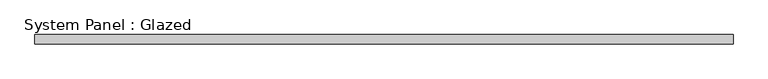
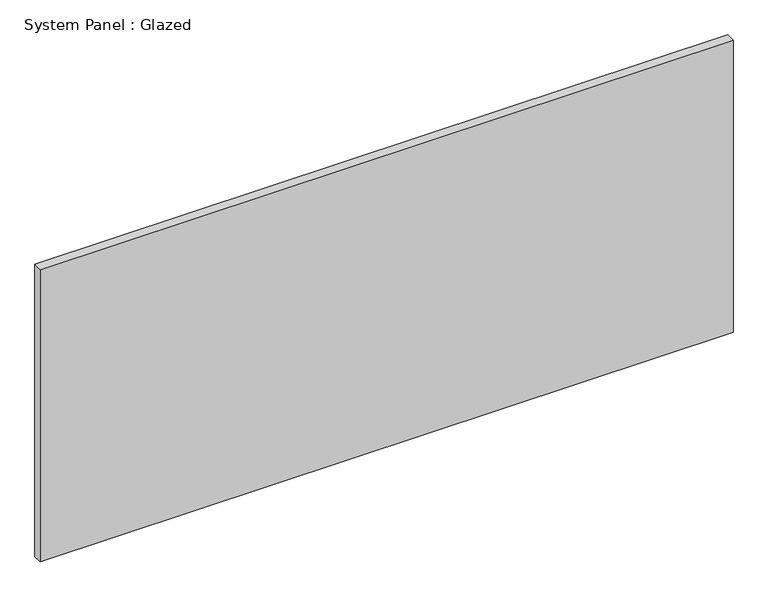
"""IFC4 building model written with IfcOpenShell, lengths in millimetres: plate geometry, System Panel : Glazed."""

from ifc_helpers import new_model, si_unit, origin, origin_with_axes, place, context, project, spatial, polyline, outline, extrude, source, transform, mapped, element, save


def system_panel_glazed_34b124d6(model_context):
    return source(origin(), model_context, "Body", "SweptSolid", [
        extrude(outline(polyline([(968.375, 19.05), (-968.375, 19.05), (-968.375, 44.45), (968.375, 44.45), (968.375, 19.05)])), origin_with_axes(), (0.0, 0.0, 1.0), 863.6),
    ])


if __name__ == "__main__":
    model = new_model("IFC4")
    model_context = context("Model", 3, world=origin())
    ifc_project = project(units=[si_unit("LENGTHUNIT", "METRE", prefix="MILLI")], contexts=[model_context])
    site = spatial("IfcSite", under=ifc_project)
    building = spatial("IfcBuilding", under=site)
    placement = place(None, origin())
    system_panel_glazed_shape = system_panel_glazed_34b124d6(model_context)
    element("IfcPlate", 1, ObjectType="System Panel : Glazed", at=placement, inside=building, context=model_context, shape_type="MappedRepresentation", body=[
        mapped(system_panel_glazed_shape, transform((0.0, 0.0, 0.0), x_axis=(1.0, 0.0, 0.0), y_axis=(0.0, 1.0, 0.0), z_axis=(0.0, 0.0, 1.0))),
    ])
    save(model, "model.ifc")
